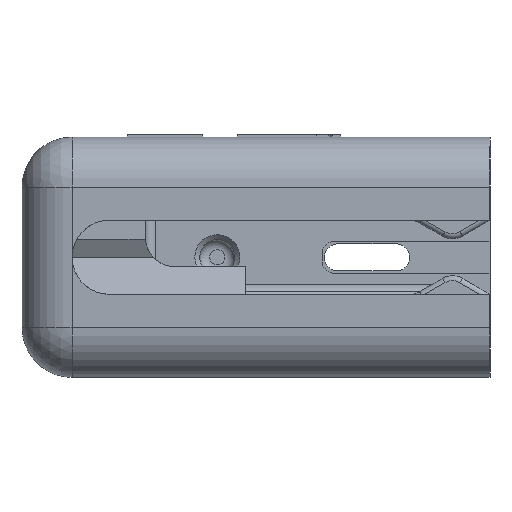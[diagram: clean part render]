
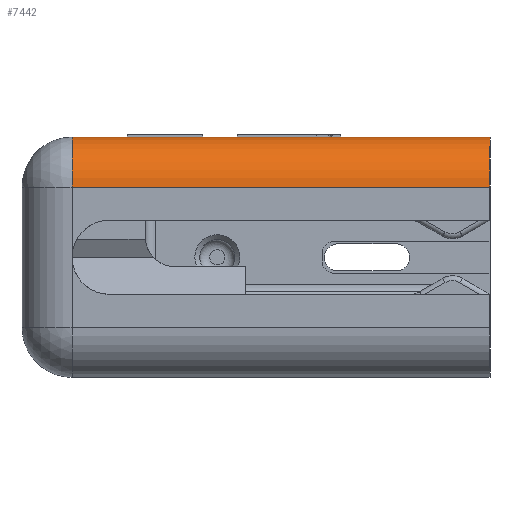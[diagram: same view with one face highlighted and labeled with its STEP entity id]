
A CAD part, left-side view. The second image highlights one B-rep face of the part: STEP entity #7442.
In plain terms, the highlighted cylindrical face has radius 5 mm (diameter 10 mm), a partial arc.
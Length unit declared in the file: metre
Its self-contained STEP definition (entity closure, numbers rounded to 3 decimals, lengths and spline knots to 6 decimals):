
#106=CYLINDRICAL_SURFACE('',#8026,0.005);
#424=CIRCLE('',#8027,0.005);
#425=CIRCLE('',#8028,0.005);
#1182=ORIENTED_EDGE('',*,*,#3090,.F.);
#1183=ORIENTED_EDGE('',*,*,#3426,.T.);
#1184=ORIENTED_EDGE('',*,*,#3369,.F.);
#1185=ORIENTED_EDGE('',*,*,#3427,.F.);
#3090=EDGE_CURVE('',#4238,#4239,#4938,.F.);
#3369=EDGE_CURVE('',#4495,#4492,#5129,.T.);
#3426=EDGE_CURVE('',#4238,#4492,#424,.T.);
#3427=EDGE_CURVE('',#4239,#4495,#425,.F.);
#4238=VERTEX_POINT('',#11284);
#4239=VERTEX_POINT('',#11286);
#4492=VERTEX_POINT('',#11867);
#4495=VERTEX_POINT('',#11875);
#4938=LINE('',#11285,#5632);
#5129=LINE('',#11876,#5823);
#5632=VECTOR('',#8830,1.);
#5823=VECTOR('',#9249,1.);
#6340=EDGE_LOOP('',(#1182,#1183,#1184,#1185));
#6800=FACE_BOUND('',#6340,.T.);
#7442=ADVANCED_FACE('',(#6800),#106,.T.);
#8026=AXIS2_PLACEMENT_3D('',#11992,#9352,#9353);
#8027=AXIS2_PLACEMENT_3D('',#11993,#9354,#9355);
#8028=AXIS2_PLACEMENT_3D('',#11994,#9356,#9357);
#8830=DIRECTION('',(0.,1.,0.));
#9249=DIRECTION('',(0.,1.,0.));
#9352=DIRECTION('',(0.,-1.,0.));
#9353=DIRECTION('',(0.,0.,-1.));
#9354=DIRECTION('',(0.,-1.,0.));
#9355=DIRECTION('',(0.,0.,-1.));
#9356=DIRECTION('',(0.,1.,0.));
#9357=DIRECTION('',(0.,0.,1.));
#11284=CARTESIAN_POINT('',(-0.001292,0.035785,0.018863));
#11285=CARTESIAN_POINT('',(-0.001292,-0.002933,0.018863));
#11286=CARTESIAN_POINT('',(-0.001292,-0.005933,0.018863));
#11867=CARTESIAN_POINT('',(-0.006292,0.035785,0.013863));
#11875=CARTESIAN_POINT('',(-0.006292,-0.005933,0.013863));
#11876=CARTESIAN_POINT('',(-0.006292,0.040785,0.013863));
#11992=CARTESIAN_POINT('',(-0.001292,0.037783,0.013863));
#11993=CARTESIAN_POINT('',(-0.001292,0.035785,0.013863));
#11994=CARTESIAN_POINT('',(-0.001292,-0.005933,0.013863));
